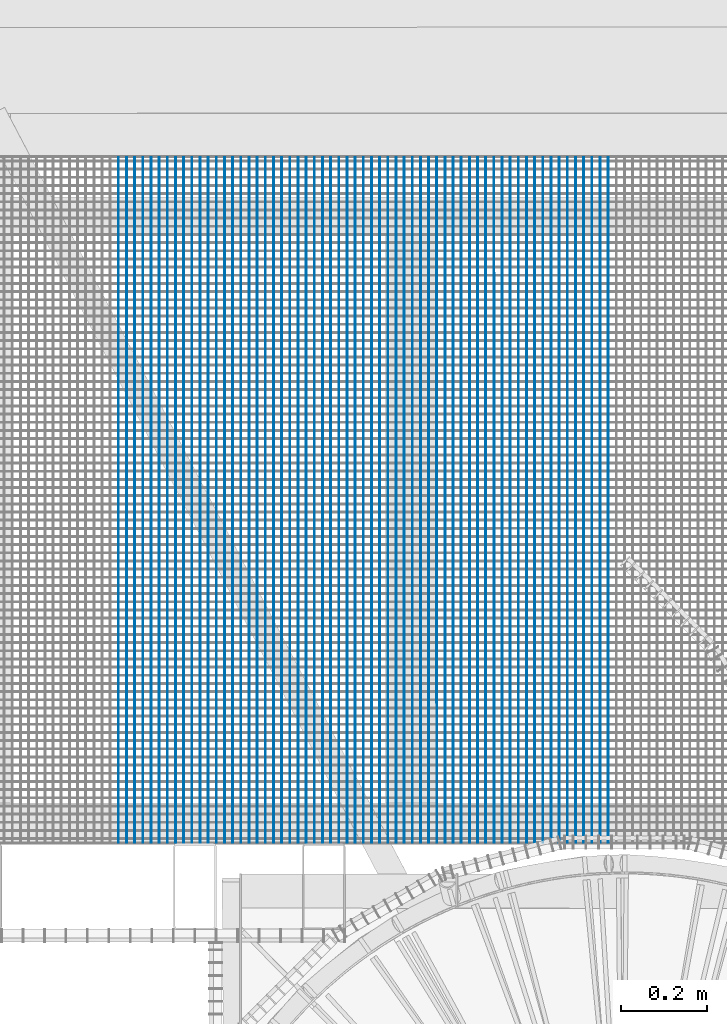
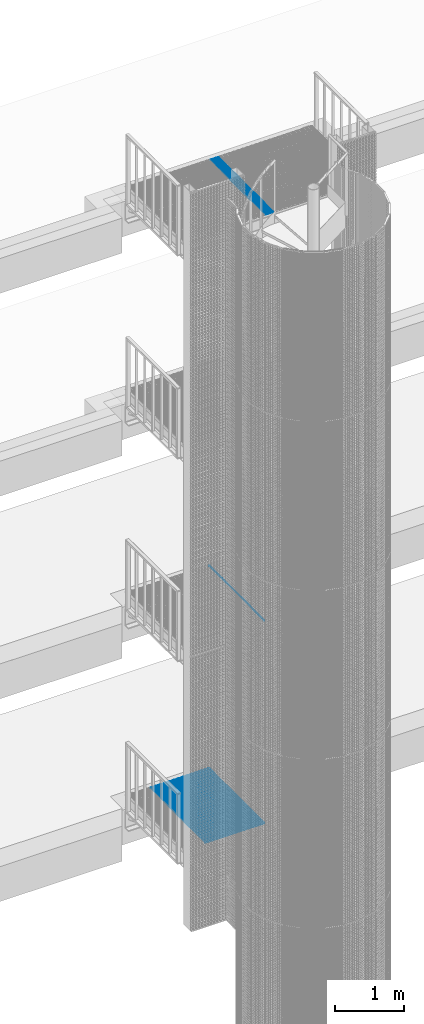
# One storey, part 95 of 1148: 62 beams, 3 elements without a shape of their own.
"""IFC2X3 building model written with IfcOpenShell, lengths in millimetres."""

from ifc_helpers import new_model, si_unit, frame, origin_with_axes, origin_2d_with_axis, place, context, subcontext, project, spatial, rectangle, extrude, material, type_object, element, aggregate, save


model = new_model("IFC2X3")

# Units and contexts
model_context = context("Model", 3, precision=1e-05, world=origin_with_axes())
body_context = subcontext(model_context, "Body", "Model", "MODEL_VIEW")
ifc_project = project(units=[si_unit("LENGTHUNIT", "METRE", prefix="MILLI"), si_unit("AREAUNIT", "SQUARE_METRE"), si_unit("VOLUMEUNIT", "CUBIC_METRE"), si_unit("MASSUNIT", "GRAM", prefix="KILO"), si_unit("TIMEUNIT", "SECOND"), si_unit("PLANEANGLEUNIT", "RADIAN"), si_unit("SOLIDANGLEUNIT", "STERADIAN"), si_unit("THERMODYNAMICTEMPERATUREUNIT", "DEGREE_CELSIUS"), si_unit("LUMINOUSINTENSITYUNIT", "LUMEN")], contexts=[model_context])

# Site, building, storey
site_placement = place(None, origin_with_axes())
site = spatial("IfcSite", under=ifc_project, at=site_placement, Name="Undefined", CompositionType="ELEMENT")
building_placement = place(site_placement, origin_with_axes())
building = spatial("IfcBuilding", under=site, at=building_placement, Name="Undefined", CompositionType="ELEMENT")
storey_placement = place(building_placement, origin_with_axes())
storey = spatial("IfcBuildingStorey", under=building, at=storey_placement, Name="Undefined", CompositionType="ELEMENT", Elevation=0.0)

# Assembly, beams
assembly_1_placement = place(storey_placement, origin_with_axes())
assembly_1 = element("IfcElementAssembly", 1, at=assembly_1_placement, inside=storey, Name="BORDURE", AssemblyPlace="NOTDEFINED", PredefinedType="NOTDEFINED")
ifc_material = material(Name="STEEL/S235JR")
beam_type = type_object("IfcBeamType", Name="PL2*10", PredefinedType="NOTDEFINED")
beam_1_placement = place(assembly_1_placement, frame((21429.115424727, 1102.00147736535, 17285.0), z_axis=(0.0, 0.0, 1.0), x_axis=(-4.50599999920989e-06, 0.999999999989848, 0.0)))
beam_1 = element("IfcBeam", 2, at=beam_1_placement, type_object=beam_type, material=ifc_material, Name="ENTRETOISE", context=body_context, shape_type="SweptSolid", body=[
    extrude(rectangle(XDim=2.0, YDim=10.0, at=origin_2d_with_axis()), frame((1596.0000000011, -1.35186458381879e-18, -7.27595761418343e-12), z_axis=(-1.0, 0.0, 0.0), x_axis=(0.0, -1.0, 0.0)), (0.0, 0.0, 1.0), 1596.0),
])
beam_2_placement = place(assembly_1_placement, frame((21448.1154247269, 1102.0015708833, 17285.0), z_axis=(0.0, 0.0, 1.0), x_axis=(-4.50599999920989e-06, 0.999999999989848, 0.0)))
beam_2 = element("IfcBeam", 3, at=beam_2_placement, type_object=beam_type, material=ifc_material, Name="ENTRETOISE", context=body_context, shape_type="SweptSolid", body=[
    extrude(rectangle(XDim=2.0, YDim=10.0, at=origin_2d_with_axis()), frame((1596.0000000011, -1.35186458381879e-18, -7.27595761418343e-12), z_axis=(-1.0, 0.0, 0.0), x_axis=(0.0, -1.0, 0.0)), (0.0, 0.0, 1.0), 1596.0),
])
beam_3_placement = place(assembly_1_placement, frame((21467.1154247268, 1102.00166440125, 17285.0), z_axis=(0.0, 0.0, 1.0), x_axis=(-4.50599999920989e-06, 0.999999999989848, 0.0)))
beam_3 = element("IfcBeam", 4, at=beam_3_placement, type_object=beam_type, material=ifc_material, Name="ENTRETOISE", context=body_context, shape_type="SweptSolid", body=[
    extrude(rectangle(XDim=2.0, YDim=10.0, at=origin_2d_with_axis()), frame((1596.0000000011, -1.35186458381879e-18, -7.27595761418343e-12), z_axis=(-1.0, 0.0, 0.0), x_axis=(0.0, -1.0, 0.0)), (0.0, 0.0, 1.0), 1596.0),
])
beam_4_placement = place(assembly_1_placement, frame((21486.1154247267, 1102.0017579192, 17285.0), z_axis=(0.0, 0.0, 1.0), x_axis=(-4.50599999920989e-06, 0.999999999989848, 0.0)))
beam_4 = element("IfcBeam", 5, at=beam_4_placement, type_object=beam_type, material=ifc_material, Name="ENTRETOISE", context=body_context, shape_type="SweptSolid", body=[
    extrude(rectangle(XDim=2.0, YDim=10.0, at=origin_2d_with_axis()), frame((1596.0000000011, -1.35186458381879e-18, -7.27595761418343e-12), z_axis=(-1.0, 0.0, 0.0), x_axis=(0.0, -1.0, 0.0)), (0.0, 0.0, 1.0), 1596.0),
])
beam_5_placement = place(assembly_1_placement, frame((21505.1154247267, 1102.00185143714, 17285.0), z_axis=(0.0, 0.0, 1.0), x_axis=(-4.50599999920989e-06, 0.999999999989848, 0.0)))
beam_5 = element("IfcBeam", 6, at=beam_5_placement, type_object=beam_type, material=ifc_material, Name="ENTRETOISE", context=body_context, shape_type="SweptSolid", body=[
    extrude(rectangle(XDim=2.0, YDim=10.0, at=origin_2d_with_axis()), frame((1596.0000000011, -1.35186458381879e-18, -7.27595761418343e-12), z_axis=(-1.0, 0.0, 0.0), x_axis=(0.0, -1.0, 0.0)), (0.0, 0.0, 1.0), 1596.0),
])
beam_6_placement = place(assembly_1_placement, frame((21524.1154247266, 1102.00194495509, 17285.0), z_axis=(0.0, 0.0, 1.0), x_axis=(-4.50599999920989e-06, 0.999999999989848, 0.0)))
beam_6 = element("IfcBeam", 7, at=beam_6_placement, type_object=beam_type, material=ifc_material, Name="ENTRETOISE", context=body_context, shape_type="SweptSolid", body=[
    extrude(rectangle(XDim=2.0, YDim=10.0, at=origin_2d_with_axis()), frame((1596.0000000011, -1.35186458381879e-18, -7.27595761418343e-12), z_axis=(-1.0, 0.0, 0.0), x_axis=(0.0, -1.0, 0.0)), (0.0, 0.0, 1.0), 1596.0),
])
beam_7_placement = place(assembly_1_placement, frame((21543.1154247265, 1102.00203847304, 17285.0), z_axis=(0.0, 0.0, 1.0), x_axis=(-4.50599999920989e-06, 0.999999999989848, 0.0)))
beam_7 = element("IfcBeam", 8, at=beam_7_placement, type_object=beam_type, material=ifc_material, Name="ENTRETOISE", context=body_context, shape_type="SweptSolid", body=[
    extrude(rectangle(XDim=2.0, YDim=10.0, at=origin_2d_with_axis()), frame((1596.0000000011, -1.35186458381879e-18, -7.27595761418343e-12), z_axis=(-1.0, 0.0, 0.0), x_axis=(0.0, -1.0, 0.0)), (0.0, 0.0, 1.0), 1596.0),
])
beam_8_placement = place(assembly_1_placement, frame((21562.1154247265, 1102.00213199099, 17285.0), z_axis=(0.0, 0.0, 1.0), x_axis=(-4.50599999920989e-06, 0.999999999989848, 0.0)))
beam_8 = element("IfcBeam", 9, at=beam_8_placement, type_object=beam_type, material=ifc_material, Name="ENTRETOISE", context=body_context, shape_type="SweptSolid", body=[
    extrude(rectangle(XDim=2.0, YDim=10.0, at=origin_2d_with_axis()), frame((1596.0000000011, -1.35186458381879e-18, -7.27595761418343e-12), z_axis=(-1.0, 0.0, 0.0), x_axis=(0.0, -1.0, 0.0)), (0.0, 0.0, 1.0), 1596.0),
])
aggregate(assembly_1, [beam_1, beam_2, beam_3, beam_4, beam_5, beam_6, beam_7, beam_8])

# Assembly, beam
assembly_2_placement = place(storey_placement, origin_with_axes())
assembly_2 = element("IfcElementAssembly", 10, at=assembly_2_placement, inside=storey, Name="BORDURE", AssemblyPlace="NOTDEFINED", PredefinedType="NOTDEFINED")
beam_9_placement = place(assembly_2_placement, frame((21410.115424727, 1102.0013838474, 10085.0), z_axis=(0.0, 0.0, 1.0), x_axis=(-4.50599999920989e-06, 0.999999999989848, 0.0)))
beam_9 = element("IfcBeam", 11, at=beam_9_placement, type_object=beam_type, material=ifc_material, Name="ENTRETOISE", context=body_context, shape_type="SweptSolid", body=[
    extrude(rectangle(XDim=2.0, YDim=10.0, at=origin_2d_with_axis()), frame((1596.0000000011, -1.35186458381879e-18, -7.27595761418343e-12), z_axis=(-1.0, 0.0, 0.0), x_axis=(0.0, -1.0, 0.0)), (0.0, 0.0, 1.0), 1596.0),
])
aggregate(assembly_2, [beam_9])

# Assembly, beams
assembly_3_placement = place(storey_placement, origin_with_axes())
assembly_3 = element("IfcElementAssembly", 12, at=assembly_3_placement, inside=storey, Name="BORDURE", AssemblyPlace="NOTDEFINED", PredefinedType="NOTDEFINED")
beam_10_placement = place(assembly_3_placement, frame((20422.1154247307, 1101.99652091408, 6485.0), z_axis=(0.0, 0.0, 1.0), x_axis=(-4.50599999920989e-06, 0.999999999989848, 0.0)))
beam_10 = element("IfcBeam", 13, at=beam_10_placement, type_object=beam_type, material=ifc_material, Name="ENTRETOISE", context=body_context, shape_type="SweptSolid", body=[
    extrude(rectangle(XDim=2.0, YDim=10.0, at=origin_2d_with_axis()), frame((1596.0000000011, -1.35186458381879e-18, -7.27595761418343e-12), z_axis=(-1.0, 0.0, 0.0), x_axis=(0.0, -1.0, 0.0)), (0.0, 0.0, 1.0), 1596.0),
])
beam_11_placement = place(assembly_3_placement, frame((20441.1154247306, 1101.99661443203, 6485.0), z_axis=(0.0, 0.0, 1.0), x_axis=(-4.50599999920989e-06, 0.999999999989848, 0.0)))
beam_11 = element("IfcBeam", 14, at=beam_11_placement, type_object=beam_type, material=ifc_material, Name="ENTRETOISE", context=body_context, shape_type="SweptSolid", body=[
    extrude(rectangle(XDim=2.0, YDim=10.0, at=origin_2d_with_axis()), frame((1596.0000000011, -1.35186458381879e-18, -7.27595761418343e-12), z_axis=(-1.0, 0.0, 0.0), x_axis=(0.0, -1.0, 0.0)), (0.0, 0.0, 1.0), 1596.0),
])
beam_12_placement = place(assembly_3_placement, frame((20460.1154247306, 1101.99670794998, 6485.0), z_axis=(0.0, 0.0, 1.0), x_axis=(-4.50599999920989e-06, 0.999999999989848, 0.0)))
beam_12 = element("IfcBeam", 15, at=beam_12_placement, type_object=beam_type, material=ifc_material, Name="ENTRETOISE", context=body_context, shape_type="SweptSolid", body=[
    extrude(rectangle(XDim=2.0, YDim=10.0, at=origin_2d_with_axis()), frame((1596.0000000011, -1.35186458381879e-18, -7.27595761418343e-12), z_axis=(-1.0, 0.0, 0.0), x_axis=(0.0, -1.0, 0.0)), (0.0, 0.0, 1.0), 1596.0),
])
beam_13_placement = place(assembly_3_placement, frame((20479.1154247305, 1101.99680146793, 6485.0), z_axis=(0.0, 0.0, 1.0), x_axis=(-4.50599999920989e-06, 0.999999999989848, 0.0)))
beam_13 = element("IfcBeam", 16, at=beam_13_placement, type_object=beam_type, material=ifc_material, Name="ENTRETOISE", context=body_context, shape_type="SweptSolid", body=[
    extrude(rectangle(XDim=2.0, YDim=10.0, at=origin_2d_with_axis()), frame((1596.0000000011, -1.35186458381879e-18, -7.27595761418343e-12), z_axis=(-1.0, 0.0, 0.0), x_axis=(0.0, -1.0, 0.0)), (0.0, 0.0, 1.0), 1596.0),
])
beam_14_placement = place(assembly_3_placement, frame((20498.1154247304, 1101.99689498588, 6485.0), z_axis=(0.0, 0.0, 1.0), x_axis=(-4.50599999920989e-06, 0.999999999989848, 0.0)))
beam_14 = element("IfcBeam", 17, at=beam_14_placement, type_object=beam_type, material=ifc_material, Name="ENTRETOISE", context=body_context, shape_type="SweptSolid", body=[
    extrude(rectangle(XDim=2.0, YDim=10.0, at=origin_2d_with_axis()), frame((1596.0000000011, -1.35186458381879e-18, -7.27595761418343e-12), z_axis=(-1.0, 0.0, 0.0), x_axis=(0.0, -1.0, 0.0)), (0.0, 0.0, 1.0), 1596.0),
])
beam_15_placement = place(assembly_3_placement, frame((20517.1154247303, 1101.99698850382, 6485.0), z_axis=(0.0, 0.0, 1.0), x_axis=(-4.50599999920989e-06, 0.999999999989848, 0.0)))
beam_15 = element("IfcBeam", 18, at=beam_15_placement, type_object=beam_type, material=ifc_material, Name="ENTRETOISE", context=body_context, shape_type="SweptSolid", body=[
    extrude(rectangle(XDim=2.0, YDim=10.0, at=origin_2d_with_axis()), frame((1596.0000000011, -1.35186458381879e-18, -7.27595761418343e-12), z_axis=(-1.0, 0.0, 0.0), x_axis=(0.0, -1.0, 0.0)), (0.0, 0.0, 1.0), 1596.0),
])
beam_16_placement = place(assembly_3_placement, frame((20536.1154247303, 1101.99708202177, 6485.0), z_axis=(0.0, 0.0, 1.0), x_axis=(-4.50599999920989e-06, 0.999999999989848, 0.0)))
beam_16 = element("IfcBeam", 19, at=beam_16_placement, type_object=beam_type, material=ifc_material, Name="ENTRETOISE", context=body_context, shape_type="SweptSolid", body=[
    extrude(rectangle(XDim=2.0, YDim=10.0, at=origin_2d_with_axis()), frame((1596.0000000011, -1.35186458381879e-18, -7.27595761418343e-12), z_axis=(-1.0, 0.0, 0.0), x_axis=(0.0, -1.0, 0.0)), (0.0, 0.0, 1.0), 1596.0),
])
beam_17_placement = place(assembly_3_placement, frame((20555.1154247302, 1101.99717553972, 6485.0), z_axis=(0.0, 0.0, 1.0), x_axis=(-4.50599999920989e-06, 0.999999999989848, 0.0)))
beam_17 = element("IfcBeam", 20, at=beam_17_placement, type_object=beam_type, material=ifc_material, Name="ENTRETOISE", context=body_context, shape_type="SweptSolid", body=[
    extrude(rectangle(XDim=2.0, YDim=10.0, at=origin_2d_with_axis()), frame((1596.0000000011, -1.35186458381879e-18, -7.27595761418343e-12), z_axis=(-1.0, 0.0, 0.0), x_axis=(0.0, -1.0, 0.0)), (0.0, 0.0, 1.0), 1596.0),
])
beam_18_placement = place(assembly_3_placement, frame((20574.1154247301, 1101.99726905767, 6485.0), z_axis=(0.0, 0.0, 1.0), x_axis=(-4.50599999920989e-06, 0.999999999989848, 0.0)))
beam_18 = element("IfcBeam", 21, at=beam_18_placement, type_object=beam_type, material=ifc_material, Name="ENTRETOISE", context=body_context, shape_type="SweptSolid", body=[
    extrude(rectangle(XDim=2.0, YDim=10.0, at=origin_2d_with_axis()), frame((1596.0000000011, -1.35186458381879e-18, -7.27595761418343e-12), z_axis=(-1.0, 0.0, 0.0), x_axis=(0.0, -1.0, 0.0)), (0.0, 0.0, 1.0), 1596.0),
])
beam_19_placement = place(assembly_3_placement, frame((20593.1154247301, 1101.99736257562, 6485.0), z_axis=(0.0, 0.0, 1.0), x_axis=(-4.50599999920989e-06, 0.999999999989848, 0.0)))
beam_19 = element("IfcBeam", 22, at=beam_19_placement, type_object=beam_type, material=ifc_material, Name="ENTRETOISE", context=body_context, shape_type="SweptSolid", body=[
    extrude(rectangle(XDim=2.0, YDim=10.0, at=origin_2d_with_axis()), frame((1596.0000000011, -1.35186458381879e-18, -7.27595761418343e-12), z_axis=(-1.0, 0.0, 0.0), x_axis=(0.0, -1.0, 0.0)), (0.0, 0.0, 1.0), 1596.0),
])
beam_20_placement = place(assembly_3_placement, frame((20612.11542473, 1101.99745609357, 6485.0), z_axis=(0.0, 0.0, 1.0), x_axis=(-4.50599999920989e-06, 0.999999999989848, 0.0)))
beam_20 = element("IfcBeam", 23, at=beam_20_placement, type_object=beam_type, material=ifc_material, Name="ENTRETOISE", context=body_context, shape_type="SweptSolid", body=[
    extrude(rectangle(XDim=2.0, YDim=10.0, at=origin_2d_with_axis()), frame((1596.0000000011, -1.35186458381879e-18, -7.27595761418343e-12), z_axis=(-1.0, 0.0, 0.0), x_axis=(0.0, -1.0, 0.0)), (0.0, 0.0, 1.0), 1596.0),
])
beam_21_placement = place(assembly_3_placement, frame((20631.1154247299, 1101.99754961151, 6485.0), z_axis=(0.0, 0.0, 1.0), x_axis=(-4.50599999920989e-06, 0.999999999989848, 0.0)))
beam_21 = element("IfcBeam", 24, at=beam_21_placement, type_object=beam_type, material=ifc_material, Name="ENTRETOISE", context=body_context, shape_type="SweptSolid", body=[
    extrude(rectangle(XDim=2.0, YDim=10.0, at=origin_2d_with_axis()), frame((1596.0000000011, -1.35186458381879e-18, -7.27595761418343e-12), z_axis=(-1.0, 0.0, 0.0), x_axis=(0.0, -1.0, 0.0)), (0.0, 0.0, 1.0), 1596.0),
])
beam_22_placement = place(assembly_3_placement, frame((20650.1154247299, 1101.99764312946, 6485.0), z_axis=(0.0, 0.0, 1.0), x_axis=(-4.50599999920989e-06, 0.999999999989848, 0.0)))
beam_22 = element("IfcBeam", 25, at=beam_22_placement, type_object=beam_type, material=ifc_material, Name="ENTRETOISE", context=body_context, shape_type="SweptSolid", body=[
    extrude(rectangle(XDim=2.0, YDim=10.0, at=origin_2d_with_axis()), frame((1596.0000000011, -1.35186458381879e-18, -7.27595761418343e-12), z_axis=(-1.0, 0.0, 0.0), x_axis=(0.0, -1.0, 0.0)), (0.0, 0.0, 1.0), 1596.0),
])
beam_23_placement = place(assembly_3_placement, frame((20669.1154247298, 1101.99773664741, 6485.0), z_axis=(0.0, 0.0, 1.0), x_axis=(-4.50599999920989e-06, 0.999999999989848, 0.0)))
beam_23 = element("IfcBeam", 26, at=beam_23_placement, type_object=beam_type, material=ifc_material, Name="ENTRETOISE", context=body_context, shape_type="SweptSolid", body=[
    extrude(rectangle(XDim=2.0, YDim=10.0, at=origin_2d_with_axis()), frame((1596.0000000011, -1.35186458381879e-18, -7.27595761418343e-12), z_axis=(-1.0, 0.0, 0.0), x_axis=(0.0, -1.0, 0.0)), (0.0, 0.0, 1.0), 1596.0),
])
beam_24_placement = place(assembly_3_placement, frame((20688.1154247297, 1101.99783016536, 6485.0), z_axis=(0.0, 0.0, 1.0), x_axis=(-4.50599999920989e-06, 0.999999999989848, 0.0)))
beam_24 = element("IfcBeam", 27, at=beam_24_placement, type_object=beam_type, material=ifc_material, Name="ENTRETOISE", context=body_context, shape_type="SweptSolid", body=[
    extrude(rectangle(XDim=2.0, YDim=10.0, at=origin_2d_with_axis()), frame((1596.0000000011, -1.35186458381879e-18, -7.27595761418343e-12), z_axis=(-1.0, 0.0, 0.0), x_axis=(0.0, -1.0, 0.0)), (0.0, 0.0, 1.0), 1596.0),
])
beam_25_placement = place(assembly_3_placement, frame((20707.1154247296, 1101.99792368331, 6485.0), z_axis=(0.0, 0.0, 1.0), x_axis=(-4.50599999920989e-06, 0.999999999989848, 0.0)))
beam_25 = element("IfcBeam", 28, at=beam_25_placement, type_object=beam_type, material=ifc_material, Name="ENTRETOISE", context=body_context, shape_type="SweptSolid", body=[
    extrude(rectangle(XDim=2.0, YDim=10.0, at=origin_2d_with_axis()), frame((1596.0000000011, -1.35186458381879e-18, -7.27595761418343e-12), z_axis=(-1.0, 0.0, 0.0), x_axis=(0.0, -1.0, 0.0)), (0.0, 0.0, 1.0), 1596.0),
])
beam_26_placement = place(assembly_3_placement, frame((20726.1154247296, 1101.99801720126, 6485.0), z_axis=(0.0, 0.0, 1.0), x_axis=(-4.50599999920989e-06, 0.999999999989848, 0.0)))
beam_26 = element("IfcBeam", 29, at=beam_26_placement, type_object=beam_type, material=ifc_material, Name="ENTRETOISE", context=body_context, shape_type="SweptSolid", body=[
    extrude(rectangle(XDim=2.0, YDim=10.0, at=origin_2d_with_axis()), frame((1596.0000000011, -1.35186458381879e-18, -7.27595761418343e-12), z_axis=(-1.0, 0.0, 0.0), x_axis=(0.0, -1.0, 0.0)), (0.0, 0.0, 1.0), 1596.0),
])
beam_27_placement = place(assembly_3_placement, frame((20745.1154247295, 1101.99811071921, 6485.0), z_axis=(0.0, 0.0, 1.0), x_axis=(-4.50599999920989e-06, 0.999999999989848, 0.0)))
beam_27 = element("IfcBeam", 30, at=beam_27_placement, type_object=beam_type, material=ifc_material, Name="ENTRETOISE", context=body_context, shape_type="SweptSolid", body=[
    extrude(rectangle(XDim=2.0, YDim=10.0, at=origin_2d_with_axis()), frame((1596.0000000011, -1.35186458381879e-18, -7.27595761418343e-12), z_axis=(-1.0, 0.0, 0.0), x_axis=(0.0, -1.0, 0.0)), (0.0, 0.0, 1.0), 1596.0),
])
beam_28_placement = place(assembly_3_placement, frame((20764.1154247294, 1101.99820423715, 6485.0), z_axis=(0.0, 0.0, 1.0), x_axis=(-4.50599999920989e-06, 0.999999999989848, 0.0)))
beam_28 = element("IfcBeam", 31, at=beam_28_placement, type_object=beam_type, material=ifc_material, Name="ENTRETOISE", context=body_context, shape_type="SweptSolid", body=[
    extrude(rectangle(XDim=2.0, YDim=10.0, at=origin_2d_with_axis()), frame((1596.0000000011, -1.35186458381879e-18, -7.27595761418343e-12), z_axis=(-1.0, 0.0, 0.0), x_axis=(0.0, -1.0, 0.0)), (0.0, 0.0, 1.0), 1596.0),
])
beam_29_placement = place(assembly_3_placement, frame((20783.1154247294, 1101.9982977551, 6485.0), z_axis=(0.0, 0.0, 1.0), x_axis=(-4.50599999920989e-06, 0.999999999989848, 0.0)))
beam_29 = element("IfcBeam", 32, at=beam_29_placement, type_object=beam_type, material=ifc_material, Name="ENTRETOISE", context=body_context, shape_type="SweptSolid", body=[
    extrude(rectangle(XDim=2.0, YDim=10.0, at=origin_2d_with_axis()), frame((1596.0000000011, -1.35186458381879e-18, -7.27595761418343e-12), z_axis=(-1.0, 0.0, 0.0), x_axis=(0.0, -1.0, 0.0)), (0.0, 0.0, 1.0), 1596.0),
])
beam_30_placement = place(assembly_3_placement, frame((20802.1154247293, 1101.99839127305, 6485.0), z_axis=(0.0, 0.0, 1.0), x_axis=(-4.50599999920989e-06, 0.999999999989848, 0.0)))
beam_30 = element("IfcBeam", 33, at=beam_30_placement, type_object=beam_type, material=ifc_material, Name="ENTRETOISE", context=body_context, shape_type="SweptSolid", body=[
    extrude(rectangle(XDim=2.0, YDim=10.0, at=origin_2d_with_axis()), frame((1596.0000000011, -1.35186458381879e-18, -7.27595761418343e-12), z_axis=(-1.0, 0.0, 0.0), x_axis=(0.0, -1.0, 0.0)), (0.0, 0.0, 1.0), 1596.0),
])
beam_31_placement = place(assembly_3_placement, frame((20821.1154247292, 1101.998484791, 6485.0), z_axis=(0.0, 0.0, 1.0), x_axis=(-4.50599999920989e-06, 0.999999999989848, 0.0)))
beam_31 = element("IfcBeam", 34, at=beam_31_placement, type_object=beam_type, material=ifc_material, Name="ENTRETOISE", context=body_context, shape_type="SweptSolid", body=[
    extrude(rectangle(XDim=2.0, YDim=10.0, at=origin_2d_with_axis()), frame((1596.0000000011, -1.35186458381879e-18, -7.27595761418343e-12), z_axis=(-1.0, 0.0, 0.0), x_axis=(0.0, -1.0, 0.0)), (0.0, 0.0, 1.0), 1596.0),
])
beam_32_placement = place(assembly_3_placement, frame((20840.1154247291, 1101.99857830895, 6485.0), z_axis=(0.0, 0.0, 1.0), x_axis=(-4.50599999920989e-06, 0.999999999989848, 0.0)))
beam_32 = element("IfcBeam", 35, at=beam_32_placement, type_object=beam_type, material=ifc_material, Name="ENTRETOISE", context=body_context, shape_type="SweptSolid", body=[
    extrude(rectangle(XDim=2.0, YDim=10.0, at=origin_2d_with_axis()), frame((1596.0000000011, -1.35186458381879e-18, -7.27595761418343e-12), z_axis=(-1.0, 0.0, 0.0), x_axis=(0.0, -1.0, 0.0)), (0.0, 0.0, 1.0), 1596.0),
])
beam_33_placement = place(assembly_3_placement, frame((20859.1154247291, 1101.9986718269, 6485.0), z_axis=(0.0, 0.0, 1.0), x_axis=(-4.50599999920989e-06, 0.999999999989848, 0.0)))
beam_33 = element("IfcBeam", 36, at=beam_33_placement, type_object=beam_type, material=ifc_material, Name="ENTRETOISE", context=body_context, shape_type="SweptSolid", body=[
    extrude(rectangle(XDim=2.0, YDim=10.0, at=origin_2d_with_axis()), frame((1596.0000000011, -1.35186458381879e-18, -7.27595761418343e-12), z_axis=(-1.0, 0.0, 0.0), x_axis=(0.0, -1.0, 0.0)), (0.0, 0.0, 1.0), 1596.0),
])
beam_34_placement = place(assembly_3_placement, frame((20878.115424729, 1101.99876534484, 6485.0), z_axis=(0.0, 0.0, 1.0), x_axis=(-4.50599999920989e-06, 0.999999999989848, 0.0)))
beam_34 = element("IfcBeam", 37, at=beam_34_placement, type_object=beam_type, material=ifc_material, Name="ENTRETOISE", context=body_context, shape_type="SweptSolid", body=[
    extrude(rectangle(XDim=2.0, YDim=10.0, at=origin_2d_with_axis()), frame((1596.0000000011, -1.35186458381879e-18, -7.27595761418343e-12), z_axis=(-1.0, 0.0, 0.0), x_axis=(0.0, -1.0, 0.0)), (0.0, 0.0, 1.0), 1596.0),
])
beam_35_placement = place(assembly_3_placement, frame((20897.1154247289, 1101.99885886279, 6485.0), z_axis=(0.0, 0.0, 1.0), x_axis=(-4.50599999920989e-06, 0.999999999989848, 0.0)))
beam_35 = element("IfcBeam", 38, at=beam_35_placement, type_object=beam_type, material=ifc_material, Name="ENTRETOISE", context=body_context, shape_type="SweptSolid", body=[
    extrude(rectangle(XDim=2.0, YDim=10.0, at=origin_2d_with_axis()), frame((1596.0000000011, -1.35186458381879e-18, -7.27595761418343e-12), z_axis=(-1.0, 0.0, 0.0), x_axis=(0.0, -1.0, 0.0)), (0.0, 0.0, 1.0), 1596.0),
])
beam_36_placement = place(assembly_3_placement, frame((20916.1154247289, 1101.99895238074, 6485.0), z_axis=(0.0, 0.0, 1.0), x_axis=(-4.50599999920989e-06, 0.999999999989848, 0.0)))
beam_36 = element("IfcBeam", 39, at=beam_36_placement, type_object=beam_type, material=ifc_material, Name="ENTRETOISE", context=body_context, shape_type="SweptSolid", body=[
    extrude(rectangle(XDim=2.0, YDim=10.0, at=origin_2d_with_axis()), frame((1596.0000000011, -1.35186458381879e-18, -7.27595761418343e-12), z_axis=(-1.0, 0.0, 0.0), x_axis=(0.0, -1.0, 0.0)), (0.0, 0.0, 1.0), 1596.0),
])
beam_37_placement = place(assembly_3_placement, frame((20935.1154247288, 1101.99904589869, 6485.0), z_axis=(0.0, 0.0, 1.0), x_axis=(-4.50599999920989e-06, 0.999999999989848, 0.0)))
beam_37 = element("IfcBeam", 40, at=beam_37_placement, type_object=beam_type, material=ifc_material, Name="ENTRETOISE", context=body_context, shape_type="SweptSolid", body=[
    extrude(rectangle(XDim=2.0, YDim=10.0, at=origin_2d_with_axis()), frame((1596.0000000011, -1.35186458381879e-18, -7.27595761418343e-12), z_axis=(-1.0, 0.0, 0.0), x_axis=(0.0, -1.0, 0.0)), (0.0, 0.0, 1.0), 1596.0),
])
beam_38_placement = place(assembly_3_placement, frame((20954.1154247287, 1101.99913941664, 6485.0), z_axis=(0.0, 0.0, 1.0), x_axis=(-4.50599999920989e-06, 0.999999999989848, 0.0)))
beam_38 = element("IfcBeam", 41, at=beam_38_placement, type_object=beam_type, material=ifc_material, Name="ENTRETOISE", context=body_context, shape_type="SweptSolid", body=[
    extrude(rectangle(XDim=2.0, YDim=10.0, at=origin_2d_with_axis()), frame((1596.0000000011, -1.35186458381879e-18, -7.27595761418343e-12), z_axis=(-1.0, 0.0, 0.0), x_axis=(0.0, -1.0, 0.0)), (0.0, 0.0, 1.0), 1596.0),
])
beam_39_placement = place(assembly_3_placement, frame((20973.1154247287, 1101.99923293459, 6485.0), z_axis=(0.0, 0.0, 1.0), x_axis=(-4.50599999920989e-06, 0.999999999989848, 0.0)))
beam_39 = element("IfcBeam", 42, at=beam_39_placement, type_object=beam_type, material=ifc_material, Name="ENTRETOISE", context=body_context, shape_type="SweptSolid", body=[
    extrude(rectangle(XDim=2.0, YDim=10.0, at=origin_2d_with_axis()), frame((1596.0000000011, -1.35186458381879e-18, -7.27595761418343e-12), z_axis=(-1.0, 0.0, 0.0), x_axis=(0.0, -1.0, 0.0)), (0.0, 0.0, 1.0), 1596.0),
])
beam_40_placement = place(assembly_3_placement, frame((20992.1154247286, 1101.99932645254, 6485.0), z_axis=(0.0, 0.0, 1.0), x_axis=(-4.50599999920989e-06, 0.999999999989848, 0.0)))
beam_40 = element("IfcBeam", 43, at=beam_40_placement, type_object=beam_type, material=ifc_material, Name="ENTRETOISE", context=body_context, shape_type="SweptSolid", body=[
    extrude(rectangle(XDim=2.0, YDim=10.0, at=origin_2d_with_axis()), frame((1596.0000000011, -1.35186458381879e-18, -7.27595761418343e-12), z_axis=(-1.0, 0.0, 0.0), x_axis=(0.0, -1.0, 0.0)), (0.0, 0.0, 1.0), 1596.0),
])
beam_41_placement = place(assembly_3_placement, frame((21011.1154247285, 1101.99941997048, 6485.0), z_axis=(0.0, 0.0, 1.0), x_axis=(-4.50599999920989e-06, 0.999999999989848, 0.0)))
beam_41 = element("IfcBeam", 44, at=beam_41_placement, type_object=beam_type, material=ifc_material, Name="ENTRETOISE", context=body_context, shape_type="SweptSolid", body=[
    extrude(rectangle(XDim=2.0, YDim=10.0, at=origin_2d_with_axis()), frame((1596.0000000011, -1.35186458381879e-18, -7.27595761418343e-12), z_axis=(-1.0, 0.0, 0.0), x_axis=(0.0, -1.0, 0.0)), (0.0, 0.0, 1.0), 1596.0),
])
beam_42_placement = place(assembly_3_placement, frame((21030.1154247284, 1101.99951348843, 6485.0), z_axis=(0.0, 0.0, 1.0), x_axis=(-4.50599999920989e-06, 0.999999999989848, 0.0)))
beam_42 = element("IfcBeam", 45, at=beam_42_placement, type_object=beam_type, material=ifc_material, Name="ENTRETOISE", context=body_context, shape_type="SweptSolid", body=[
    extrude(rectangle(XDim=2.0, YDim=10.0, at=origin_2d_with_axis()), frame((1596.0000000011, -1.35186458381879e-18, -7.27595761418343e-12), z_axis=(-1.0, 0.0, 0.0), x_axis=(0.0, -1.0, 0.0)), (0.0, 0.0, 1.0), 1596.0),
])
beam_43_placement = place(assembly_3_placement, frame((21049.1154247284, 1101.99960700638, 6485.0), z_axis=(0.0, 0.0, 1.0), x_axis=(-4.50599999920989e-06, 0.999999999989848, 0.0)))
beam_43 = element("IfcBeam", 46, at=beam_43_placement, type_object=beam_type, material=ifc_material, Name="ENTRETOISE", context=body_context, shape_type="SweptSolid", body=[
    extrude(rectangle(XDim=2.0, YDim=10.0, at=origin_2d_with_axis()), frame((1596.0000000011, -1.35186458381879e-18, -7.27595761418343e-12), z_axis=(-1.0, 0.0, 0.0), x_axis=(0.0, -1.0, 0.0)), (0.0, 0.0, 1.0), 1596.0),
])
beam_44_placement = place(assembly_3_placement, frame((21068.1154247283, 1101.99970052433, 6485.0), z_axis=(0.0, 0.0, 1.0), x_axis=(-4.50599999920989e-06, 0.999999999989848, 0.0)))
beam_44 = element("IfcBeam", 47, at=beam_44_placement, type_object=beam_type, material=ifc_material, Name="ENTRETOISE", context=body_context, shape_type="SweptSolid", body=[
    extrude(rectangle(XDim=2.0, YDim=10.0, at=origin_2d_with_axis()), frame((1596.0000000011, -1.35186458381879e-18, -7.27595761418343e-12), z_axis=(-1.0, 0.0, 0.0), x_axis=(0.0, -1.0, 0.0)), (0.0, 0.0, 1.0), 1596.0),
])
beam_45_placement = place(assembly_3_placement, frame((21087.1154247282, 1101.99979404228, 6485.0), z_axis=(0.0, 0.0, 1.0), x_axis=(-4.50599999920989e-06, 0.999999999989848, 0.0)))
beam_45 = element("IfcBeam", 48, at=beam_45_placement, type_object=beam_type, material=ifc_material, Name="ENTRETOISE", context=body_context, shape_type="SweptSolid", body=[
    extrude(rectangle(XDim=2.0, YDim=10.0, at=origin_2d_with_axis()), frame((1596.0000000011, -1.35186458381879e-18, -7.27595761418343e-12), z_axis=(-1.0, 0.0, 0.0), x_axis=(0.0, -1.0, 0.0)), (0.0, 0.0, 1.0), 1596.0),
])
beam_46_placement = place(assembly_3_placement, frame((21106.1154247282, 1101.99988756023, 6485.0), z_axis=(0.0, 0.0, 1.0), x_axis=(-4.50599999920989e-06, 0.999999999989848, 0.0)))
beam_46 = element("IfcBeam", 49, at=beam_46_placement, type_object=beam_type, material=ifc_material, Name="ENTRETOISE", context=body_context, shape_type="SweptSolid", body=[
    extrude(rectangle(XDim=2.0, YDim=10.0, at=origin_2d_with_axis()), frame((1596.0000000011, -1.35186458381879e-18, -7.27595761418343e-12), z_axis=(-1.0, 0.0, 0.0), x_axis=(0.0, -1.0, 0.0)), (0.0, 0.0, 1.0), 1596.0),
])
beam_47_placement = place(assembly_3_placement, frame((21125.1154247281, 1101.99998107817, 6485.0), z_axis=(0.0, 0.0, 1.0), x_axis=(-4.50599999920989e-06, 0.999999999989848, 0.0)))
beam_47 = element("IfcBeam", 50, at=beam_47_placement, type_object=beam_type, material=ifc_material, Name="ENTRETOISE", context=body_context, shape_type="SweptSolid", body=[
    extrude(rectangle(XDim=2.0, YDim=10.0, at=origin_2d_with_axis()), frame((1596.0000000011, -1.35186458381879e-18, -7.27595761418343e-12), z_axis=(-1.0, 0.0, 0.0), x_axis=(0.0, -1.0, 0.0)), (0.0, 0.0, 1.0), 1596.0),
])
beam_48_placement = place(assembly_3_placement, frame((21144.115424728, 1102.00007459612, 6485.0), z_axis=(0.0, 0.0, 1.0), x_axis=(-4.50599999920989e-06, 0.999999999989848, 0.0)))
beam_48 = element("IfcBeam", 51, at=beam_48_placement, type_object=beam_type, material=ifc_material, Name="ENTRETOISE", context=body_context, shape_type="SweptSolid", body=[
    extrude(rectangle(XDim=2.0, YDim=10.0, at=origin_2d_with_axis()), frame((1596.0000000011, -1.35186458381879e-18, -7.27595761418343e-12), z_axis=(-1.0, 0.0, 0.0), x_axis=(0.0, -1.0, 0.0)), (0.0, 0.0, 1.0), 1596.0),
])
beam_49_placement = place(assembly_3_placement, frame((21163.1154247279, 1102.00016811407, 6485.0), z_axis=(0.0, 0.0, 1.0), x_axis=(-4.50599999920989e-06, 0.999999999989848, 0.0)))
beam_49 = element("IfcBeam", 52, at=beam_49_placement, type_object=beam_type, material=ifc_material, Name="ENTRETOISE", context=body_context, shape_type="SweptSolid", body=[
    extrude(rectangle(XDim=2.0, YDim=10.0, at=origin_2d_with_axis()), frame((1596.0000000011, -1.35186458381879e-18, -7.27595761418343e-12), z_axis=(-1.0, 0.0, 0.0), x_axis=(0.0, -1.0, 0.0)), (0.0, 0.0, 1.0), 1596.0),
])
beam_50_placement = place(assembly_3_placement, frame((21182.1154247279, 1102.00026163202, 6485.0), z_axis=(0.0, 0.0, 1.0), x_axis=(-4.50599999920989e-06, 0.999999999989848, 0.0)))
beam_50 = element("IfcBeam", 53, at=beam_50_placement, type_object=beam_type, material=ifc_material, Name="ENTRETOISE", context=body_context, shape_type="SweptSolid", body=[
    extrude(rectangle(XDim=2.0, YDim=10.0, at=origin_2d_with_axis()), frame((1596.0000000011, -1.35186458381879e-18, -7.27595761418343e-12), z_axis=(-1.0, 0.0, 0.0), x_axis=(0.0, -1.0, 0.0)), (0.0, 0.0, 1.0), 1596.0),
])
beam_51_placement = place(assembly_3_placement, frame((21201.1154247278, 1102.00035514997, 6485.0), z_axis=(0.0, 0.0, 1.0), x_axis=(-4.50599999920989e-06, 0.999999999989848, 0.0)))
beam_51 = element("IfcBeam", 54, at=beam_51_placement, type_object=beam_type, material=ifc_material, Name="ENTRETOISE", context=body_context, shape_type="SweptSolid", body=[
    extrude(rectangle(XDim=2.0, YDim=10.0, at=origin_2d_with_axis()), frame((1596.0000000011, -1.35186458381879e-18, -7.27595761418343e-12), z_axis=(-1.0, 0.0, 0.0), x_axis=(0.0, -1.0, 0.0)), (0.0, 0.0, 1.0), 1596.0),
])
beam_52_placement = place(assembly_3_placement, frame((21220.1154247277, 1102.00044866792, 6485.0), z_axis=(0.0, 0.0, 1.0), x_axis=(-4.50599999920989e-06, 0.999999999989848, 0.0)))
beam_52 = element("IfcBeam", 55, at=beam_52_placement, type_object=beam_type, material=ifc_material, Name="ENTRETOISE", context=body_context, shape_type="SweptSolid", body=[
    extrude(rectangle(XDim=2.0, YDim=10.0, at=origin_2d_with_axis()), frame((1596.0000000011, -1.35186458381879e-18, -7.27595761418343e-12), z_axis=(-1.0, 0.0, 0.0), x_axis=(0.0, -1.0, 0.0)), (0.0, 0.0, 1.0), 1596.0),
])
beam_53_placement = place(assembly_3_placement, frame((21239.1154247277, 1102.00054218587, 6485.0), z_axis=(0.0, 0.0, 1.0), x_axis=(-4.50599999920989e-06, 0.999999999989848, 0.0)))
beam_53 = element("IfcBeam", 56, at=beam_53_placement, type_object=beam_type, material=ifc_material, Name="ENTRETOISE", context=body_context, shape_type="SweptSolid", body=[
    extrude(rectangle(XDim=2.0, YDim=10.0, at=origin_2d_with_axis()), frame((1596.0000000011, -1.35186458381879e-18, -7.27595761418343e-12), z_axis=(-1.0, 0.0, 0.0), x_axis=(0.0, -1.0, 0.0)), (0.0, 0.0, 1.0), 1596.0),
])
beam_54_placement = place(assembly_3_placement, frame((21258.1154247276, 1102.00063570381, 6485.0), z_axis=(0.0, 0.0, 1.0), x_axis=(-4.50599999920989e-06, 0.999999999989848, 0.0)))
beam_54 = element("IfcBeam", 57, at=beam_54_placement, type_object=beam_type, material=ifc_material, Name="ENTRETOISE", context=body_context, shape_type="SweptSolid", body=[
    extrude(rectangle(XDim=2.0, YDim=10.0, at=origin_2d_with_axis()), frame((1596.0000000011, -1.35186458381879e-18, -7.27595761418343e-12), z_axis=(-1.0, 0.0, 0.0), x_axis=(0.0, -1.0, 0.0)), (0.0, 0.0, 1.0), 1596.0),
])
beam_55_placement = place(assembly_3_placement, frame((21277.1154247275, 1102.00072922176, 6485.0), z_axis=(0.0, 0.0, 1.0), x_axis=(-4.50599999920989e-06, 0.999999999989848, 0.0)))
beam_55 = element("IfcBeam", 58, at=beam_55_placement, type_object=beam_type, material=ifc_material, Name="ENTRETOISE", context=body_context, shape_type="SweptSolid", body=[
    extrude(rectangle(XDim=2.0, YDim=10.0, at=origin_2d_with_axis()), frame((1596.0000000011, -1.35186458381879e-18, -7.27595761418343e-12), z_axis=(-1.0, 0.0, 0.0), x_axis=(0.0, -1.0, 0.0)), (0.0, 0.0, 1.0), 1596.0),
])
beam_56_placement = place(assembly_3_placement, frame((21296.1154247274, 1102.00082273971, 6485.0), z_axis=(0.0, 0.0, 1.0), x_axis=(-4.50599999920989e-06, 0.999999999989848, 0.0)))
beam_56 = element("IfcBeam", 59, at=beam_56_placement, type_object=beam_type, material=ifc_material, Name="ENTRETOISE", context=body_context, shape_type="SweptSolid", body=[
    extrude(rectangle(XDim=2.0, YDim=10.0, at=origin_2d_with_axis()), frame((1596.0000000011, -1.35186458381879e-18, -7.27595761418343e-12), z_axis=(-1.0, 0.0, 0.0), x_axis=(0.0, -1.0, 0.0)), (0.0, 0.0, 1.0), 1596.0),
])
beam_57_placement = place(assembly_3_placement, frame((21315.1154247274, 1102.00091625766, 6485.0), z_axis=(0.0, 0.0, 1.0), x_axis=(-4.50599999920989e-06, 0.999999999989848, 0.0)))
beam_57 = element("IfcBeam", 60, at=beam_57_placement, type_object=beam_type, material=ifc_material, Name="ENTRETOISE", context=body_context, shape_type="SweptSolid", body=[
    extrude(rectangle(XDim=2.0, YDim=10.0, at=origin_2d_with_axis()), frame((1596.0000000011, -1.35186458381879e-18, -7.27595761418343e-12), z_axis=(-1.0, 0.0, 0.0), x_axis=(0.0, -1.0, 0.0)), (0.0, 0.0, 1.0), 1596.0),
])
beam_58_placement = place(assembly_3_placement, frame((21334.1154247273, 1102.00100977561, 6485.0), z_axis=(0.0, 0.0, 1.0), x_axis=(-4.50599999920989e-06, 0.999999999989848, 0.0)))
beam_58 = element("IfcBeam", 61, at=beam_58_placement, type_object=beam_type, material=ifc_material, Name="ENTRETOISE", context=body_context, shape_type="SweptSolid", body=[
    extrude(rectangle(XDim=2.0, YDim=10.0, at=origin_2d_with_axis()), frame((1596.0000000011, -1.35186458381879e-18, -7.27595761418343e-12), z_axis=(-1.0, 0.0, 0.0), x_axis=(0.0, -1.0, 0.0)), (0.0, 0.0, 1.0), 1596.0),
])
beam_59_placement = place(assembly_3_placement, frame((21353.1154247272, 1102.00110329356, 6485.0), z_axis=(0.0, 0.0, 1.0), x_axis=(-4.50599999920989e-06, 0.999999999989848, 0.0)))
beam_59 = element("IfcBeam", 62, at=beam_59_placement, type_object=beam_type, material=ifc_material, Name="ENTRETOISE", context=body_context, shape_type="SweptSolid", body=[
    extrude(rectangle(XDim=2.0, YDim=10.0, at=origin_2d_with_axis()), frame((1596.0000000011, -1.35186458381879e-18, -7.27595761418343e-12), z_axis=(-1.0, 0.0, 0.0), x_axis=(0.0, -1.0, 0.0)), (0.0, 0.0, 1.0), 1596.0),
])
beam_60_placement = place(assembly_3_placement, frame((21372.1154247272, 1102.0011968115, 6485.0), z_axis=(0.0, 0.0, 1.0), x_axis=(-4.50599999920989e-06, 0.999999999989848, 0.0)))
beam_60 = element("IfcBeam", 63, at=beam_60_placement, type_object=beam_type, material=ifc_material, Name="ENTRETOISE", context=body_context, shape_type="SweptSolid", body=[
    extrude(rectangle(XDim=2.0, YDim=10.0, at=origin_2d_with_axis()), frame((1596.0000000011, -1.35186458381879e-18, -7.27595761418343e-12), z_axis=(-1.0, 0.0, 0.0), x_axis=(0.0, -1.0, 0.0)), (0.0, 0.0, 1.0), 1596.0),
])
beam_61_placement = place(assembly_3_placement, frame((21391.1154247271, 1102.00129032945, 6485.0), z_axis=(0.0, 0.0, 1.0), x_axis=(-4.50599999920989e-06, 0.999999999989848, 0.0)))
beam_61 = element("IfcBeam", 64, at=beam_61_placement, type_object=beam_type, material=ifc_material, Name="ENTRETOISE", context=body_context, shape_type="SweptSolid", body=[
    extrude(rectangle(XDim=2.0, YDim=10.0, at=origin_2d_with_axis()), frame((1596.0000000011, -1.35186458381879e-18, -7.27595761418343e-12), z_axis=(-1.0, 0.0, 0.0), x_axis=(0.0, -1.0, 0.0)), (0.0, 0.0, 1.0), 1596.0),
])
beam_62_placement = place(assembly_3_placement, frame((21410.115424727, 1102.0013838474, 6485.0), z_axis=(0.0, 0.0, 1.0), x_axis=(-4.50599999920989e-06, 0.999999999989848, 0.0)))
beam_62 = element("IfcBeam", 65, at=beam_62_placement, type_object=beam_type, material=ifc_material, Name="ENTRETOISE", context=body_context, shape_type="SweptSolid", body=[
    extrude(rectangle(XDim=2.0, YDim=10.0, at=origin_2d_with_axis()), frame((1596.0000000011, -1.35186458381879e-18, -7.27595761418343e-12), z_axis=(-1.0, 0.0, 0.0), x_axis=(0.0, -1.0, 0.0)), (0.0, 0.0, 1.0), 1596.0),
])
aggregate(assembly_3, [beam_10, beam_11, beam_12, beam_13, beam_14, beam_15, beam_16, beam_17, beam_18, beam_19, beam_20, beam_21, beam_22, beam_23, beam_24, beam_25, beam_26, beam_27, beam_28, beam_29, beam_30, beam_31, beam_32, beam_33, beam_34, beam_35, beam_36, beam_37, beam_38, beam_39, beam_40, beam_41, beam_42, beam_43, beam_44, beam_45, beam_46, beam_47, beam_48, beam_49, beam_50, beam_51, beam_52, beam_53, beam_54, beam_55, beam_56, beam_57, beam_58, beam_59, beam_60, beam_61, beam_62])

save(model, "model.ifc")
